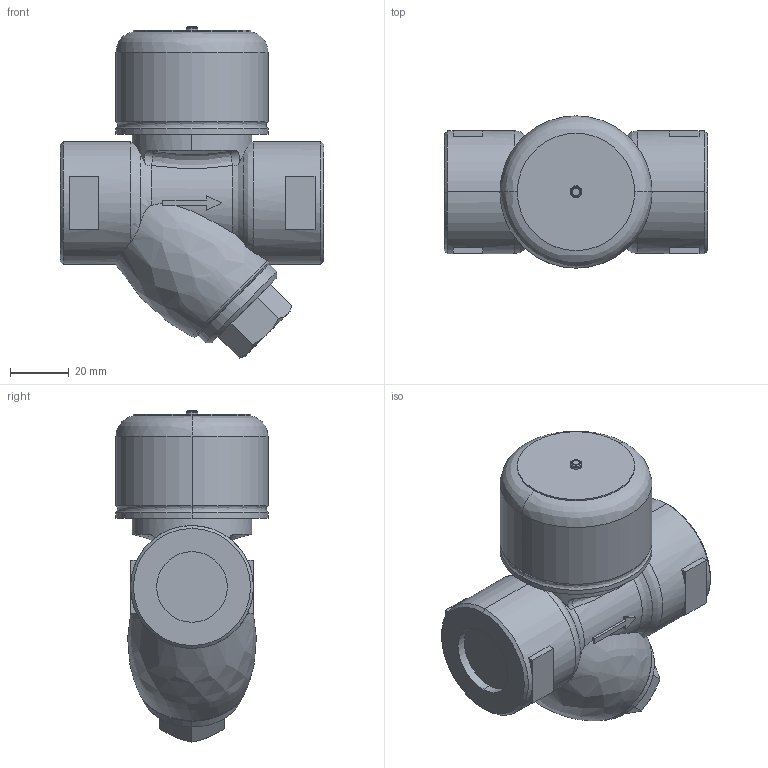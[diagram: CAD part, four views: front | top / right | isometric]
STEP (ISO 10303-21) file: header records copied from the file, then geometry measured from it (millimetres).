
FILE_DESCRIPTION( (''), '2;1');
FILE_NAME ('PC1027.12188.TD-10NA 20A_23127.stp','2025-07-31T18:12:10',(''),(''),'spGate 20.6.3 (****-****-****-****)','','');
FILE_SCHEMA (('AUTOMOTIVE_DESIGN'));
Length unit declared in the file: millimetre
Bounding box: 90 x 52 x 113.5 mm (x, y, z)
Volume: 235897.5 mm3; surface area: 27471.1 mm2
Topology: 1 solids, 1 shells, 122 faces, 308 edges, 198 vertices
Faces by surface type: plane 60, bspline 40, cylinder 22
Entity records: 6901 total; most frequent: CARTESIAN_POINT 1828, ORIENTED_EDGE 616, DIRECTION 466, COLOUR_RGB 431, PRESENTATION_STYLE_ASSIGNMENT 431, STYLED_ITEM 431, EDGE_CURVE 308, DRAUGHTING_PRE_DEFINED_CURVE_FONT 308
